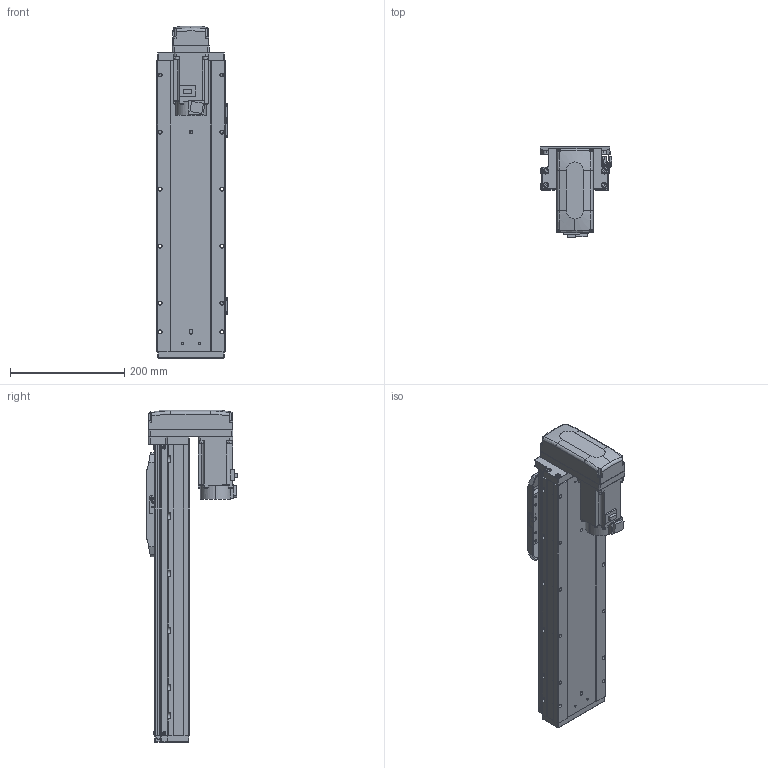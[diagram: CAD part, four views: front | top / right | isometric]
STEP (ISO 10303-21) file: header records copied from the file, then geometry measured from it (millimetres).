
FILE_DESCRIPTION (( 'STEP AP203' ), '1' );
FILE_NAME ('GTH12-300-BM-M40-C4.step', '2022-09-29T02:00:51', ( '微软用户' ), ( '微软中国' ), 'SwSTEP 2.0', 'SolidWorks 2020', '' );
FILE_SCHEMA (( 'CONFIG_CONTROL_DESIGN' ));
Length unit declared in the file: millimetre
Products named in the file (18): GTH120-003; GTH80-022; CTHA86-033_M40B; GTH12-300-BM-M40-C4; GTH120-006; GTH80-028; GTH120-027-1_GTH120-027-2; GTH120-004; GTH50-023; GTH120-013; GTH50-024; GBT 70.1-M3℅6; GBT96.1-2002 3×0.8; GBT 70.1-M5×16; BTH-M3X5X6; GTH120-001_300; GBT 70.3-M3℅8; hg-kn43j_-s100_
Assembly tree (59 placements, depth 2):
  GTH12-300-BM-M40-C4
    GTH120-001_300
    GTH120-003
    GTH120-006
    GTH120-004
    GTH120-013
    GBT 70.1-M3℅6  x14
    GBT 70.1-M5×16  x10
    GBT 70.3-M3℅8  x4
    GTH80-022
    GTH80-028  x2
    GTH50-023  x3
    GTH50-024  x3
    GBT96.1-2002 3×0.8  x6
    BTH-M3X5X6  x8
    hg-kn43j_-s100_
    CTHA86-033_M40B
    GTH120-027-1_GTH120-027-2
Bounding box: 125.7 x 159.8 x 582 mm (x, y, z)
Volume: 4579830.3 mm3; surface area: 481461.3 mm2
Topology: 61 solids, 61 shells, 2382 faces, 5533 edges, 3393 vertices
Faces by surface type: plane 1238, cylinder 676, cone 280, torus 174, sphere 8, bspline 6
Entity records: 43707 total; most frequent: CARTESIAN_POINT 7438, DIRECTION 7197, ORIENTED_EDGE 6676, EDGE_CURVE 3338, AXIS2_PLACEMENT_3D 2517, LINE 2163, VECTOR 2163, VERTEX_POINT 2114
